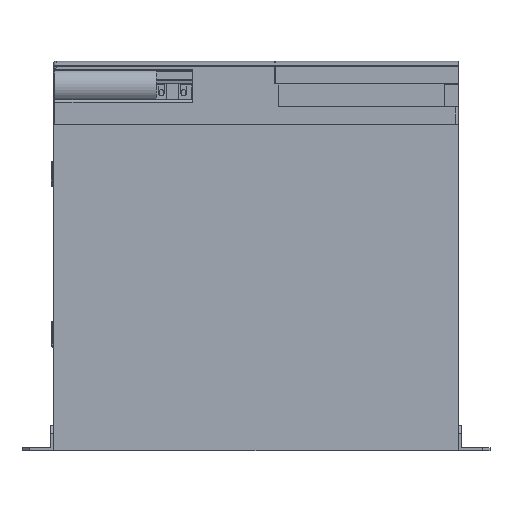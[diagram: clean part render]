
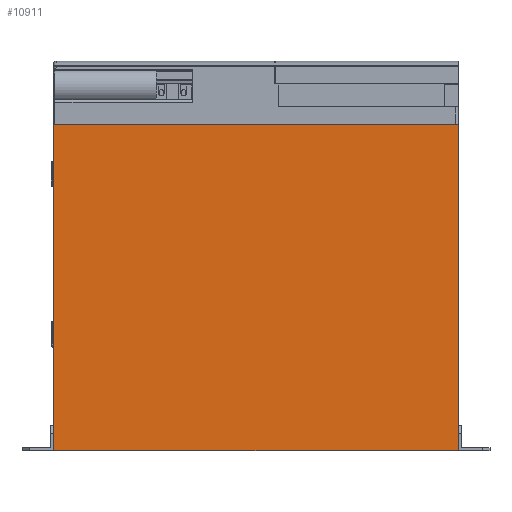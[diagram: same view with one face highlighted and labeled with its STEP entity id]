
A CAD part, left-side view. The second image highlights one B-rep face of the part: STEP entity #10911.
In plain terms, the highlighted planar face has unit normal (-1, 0, 0).
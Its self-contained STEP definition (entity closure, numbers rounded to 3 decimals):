
#10911=ADVANCED_FACE('',(#18274),#18273,.F.);
#18273=PLANE('',#72957);
#18274=FACE_OUTER_BOUND('',#72958,.T.);
#72954=CARTESIAN_POINT('',(-7.1,-169.5,-4.9));
#72955=DIRECTION('',(1.,0.,0.));
#72956=DIRECTION('',(0.,0.,-1.));
#72957=AXIS2_PLACEMENT_3D('',#72954,#72955,#72956);
#72958=EDGE_LOOP('',(#102530,#102531,#102532,#102533));
#102530=ORIENTED_EDGE('',*,*,#132060,.T.);
#102531=ORIENTED_EDGE('',*,*,#132063,.F.);
#102532=ORIENTED_EDGE('',*,*,#132061,.F.);
#102533=ORIENTED_EDGE('',*,*,#132041,.T.);
#132041=EDGE_CURVE('',#149217,#149210,#149218,.T.);
#132060=EDGE_CURVE('',#149210,#149334,#149341,.T.);
#132061=EDGE_CURVE('',#149217,#149347,#149348,.T.);
#132063=EDGE_CURVE('',#149347,#149334,#149360,.T.);
#149210=VERTEX_POINT('',#251072);
#149217=VERTEX_POINT('',#251076);
#149218=LINE('',#251077,#251078);
#149334=VERTEX_POINT('',#251139);
#149341=LINE('',#251143,#251144);
#149347=VERTEX_POINT('',#251146);
#149348=LINE('',#251147,#251148);
#149360=LINE('',#251153,#251154);
#251072=CARTESIAN_POINT('',(-7.1,0.5,-143.9));
#251076=CARTESIAN_POINT('',(-7.1,0.5,-14.9));
#251077=CARTESIAN_POINT('',(-7.1,0.5,-14.9));
#251078=VECTOR('',#251079,129.);
#251079=DIRECTION('',(0.,0.,-1.));
#251139=CARTESIAN_POINT('',(-7.1,-159.5,-143.9));
#251143=CARTESIAN_POINT('',(-7.1,0.5,-143.9));
#251144=VECTOR('',#251145,160.);
#251145=DIRECTION('',(0.,-1.,0.));
#251146=CARTESIAN_POINT('',(-7.1,-159.5,-14.9));
#251147=CARTESIAN_POINT('',(-7.1,0.5,-14.9));
#251148=VECTOR('',#251149,160.);
#251149=DIRECTION('',(0.,-1.,0.));
#251153=CARTESIAN_POINT('',(-7.1,-159.5,-14.9));
#251154=VECTOR('',#251155,129.);
#251155=DIRECTION('',(0.,0.,-1.));
